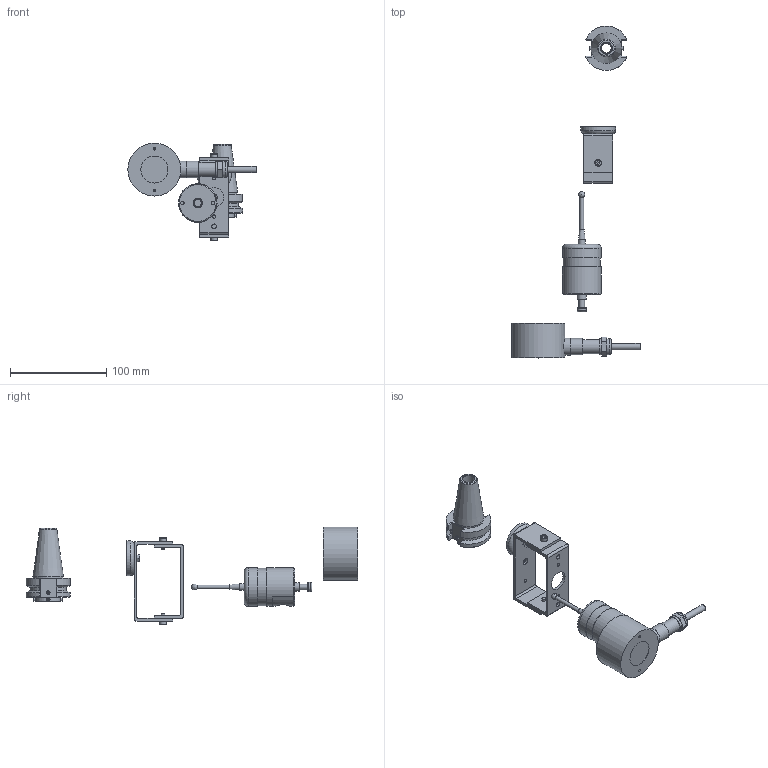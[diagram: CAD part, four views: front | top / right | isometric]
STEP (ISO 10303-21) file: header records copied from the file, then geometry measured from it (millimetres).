
FILE_DESCRIPTION(/* description */ (''),/* implementation_level */ '2;1');
FILE_NAME(/* name */ 'Z:\Проектный отдел\Алена\Оптический датчик-центроискатель CP40\Оптический датчик-центроискатель CP40 сборка.stp',/* time_stamp */ '2024-03-04T10:30:39+03:00',/* author */ ('User'),/* organization */ (''),/* preprocessor_version */ 'ST-DEVELOPER v18',/* originating_system */ 'Autodesk Inventor 2020',/* authorisation */ '');
FILE_SCHEMA (('AUTOMOTIVE_DESIGN { 1 0 10303 214 3 1 1 }'));
Length unit declared in the file: millimetre
Products named in the file (10): Оптический датчик-
центроискатель CP40 
сборка; Датчик черный; Датчик; держатель; Крепление 1; Крепление 2; Магнит; гайка; BS 4168 - M4 x 8(5); Патрон
Assembly tree (10 placements, depth 3):
  Оптический датчик-
центроискатель CP40 
сборка
    Датчик черный
    Датчик
    держатель
      Крепление 1
      Крепление 2
      Магнит
      гайка
      BS 4168 - M4 x 8(5)  x2
    Патрон
Bounding box: 133 x 344.15 x 101.57 mm (x, y, z)
Volume: 236301.8 mm3; surface area: 63647.5 mm2
Topology: 13 solids, 13 shells, 262 faces, 747 edges, 538 vertices
Faces by surface type: plane 137, cylinder 84, cone 17, bspline 12, torus 11, sphere 1
Full cylindrical faces by diameter (mm): 2 x10, 2.459 x2, 3.4 x5, 3.459 x1, 3.5 x2, 3.75 x4, 3.8 x6, 3.95 x1, 4 x2, 4.8 x2, 5.9 x1, 6.5 x1, 6.6 x1, 7 x3, 9 x1, 9.7 x1, 10 x2, 11 x2, 11.5 x1, 12.5 x1, 14.7 x1, 15.8 x1, 16 x1, 16.6 x1, 16.7 x1, 17 x1, 17.5 x1, 20 x1, 28 x1, 30 x1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
Entity records: 9492 total; most frequent: CARTESIAN_POINT 2298, DIRECTION 1425, ORIENTED_EDGE 1410, EDGE_CURVE 705, AXIS2_PLACEMENT_3D 575, VERTEX_POINT 513, EDGE_LOOP 326, CIRCLE 316
